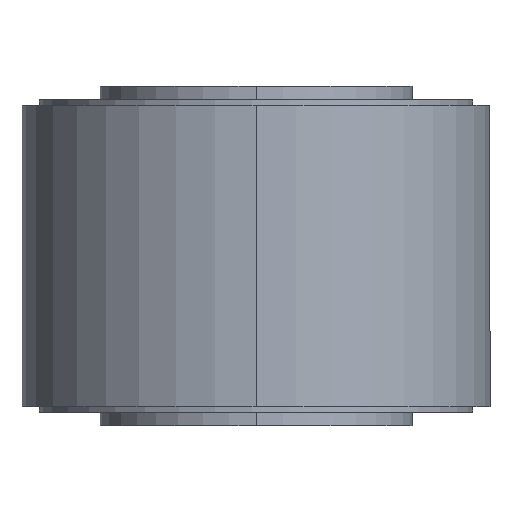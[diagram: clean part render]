
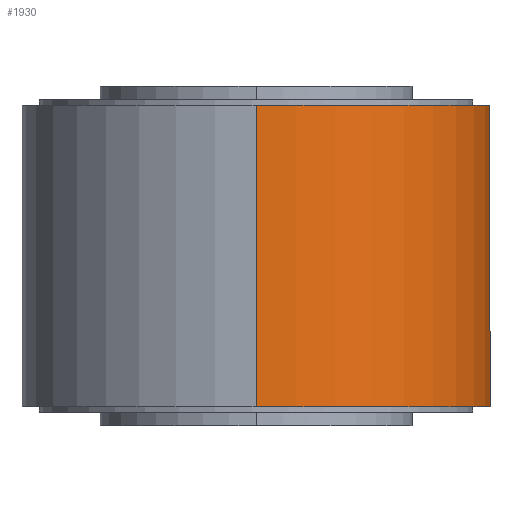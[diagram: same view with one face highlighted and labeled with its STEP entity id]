
A CAD part, left-side view. The second image highlights one B-rep face of the part: STEP entity #1930.
In plain terms, the highlighted cylindrical face has radius 67.5 mm (diameter 135 mm), a partial arc.
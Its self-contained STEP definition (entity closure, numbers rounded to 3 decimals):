
#122 = EDGE_LOOP ( 'NONE', ( #833, #839, #836, #811 ) ) ;
#618 = CIRCLE ( 'NONE', #876, 67.5 ) ;
#621 = CIRCLE ( 'NONE', #877, 67.5 ) ;
#623 = LINE ( 'NONE', #1073, #625 ) ;
#625 = VECTOR ( 'NONE', #1069, 1000. ) ;
#626 = LINE ( 'NONE', #1078, #628 ) ;
#628 = VECTOR ( 'NONE', #1074, 1000. ) ;
#674 = FACE_OUTER_BOUND ( 'NONE', #122, .T. ) ;
#679 = CYLINDRICAL_SURFACE ( 'NONE', #891, 67.5 ) ;
#811 = ORIENTED_EDGE ( 'NONE', *, *, #1901, .F. ) ;
#833 = ORIENTED_EDGE ( 'NONE', *, *, #1898, .F. ) ;
#836 = ORIENTED_EDGE ( 'NONE', *, *, #1900, .T. ) ;
#839 = ORIENTED_EDGE ( 'NONE', *, *, #1899, .T. ) ;
#876 = AXIS2_PLACEMENT_3D ( 'NONE', #1075, #1076, #1077 ) ;
#877 = AXIS2_PLACEMENT_3D ( 'NONE', #1080, #1081, #1082 ) ;
#891 = AXIS2_PLACEMENT_3D ( 'NONE', #1153, #1154, #1152 ) ;
#1069 = DIRECTION ( 'NONE',  ( 0., 0., -1. ) ) ;
#1073 = CARTESIAN_POINT ( 'NONE',  ( 0., -25.5, 45. ) ) ;
#1074 = DIRECTION ( 'NONE',  ( 0., 0., -1. ) ) ;
#1075 = CARTESIAN_POINT ( 'NONE',  ( 67.5, -25.5, 43.5 ) ) ;
#1076 = DIRECTION ( 'NONE',  ( 0., 0., 1. ) ) ;
#1077 = DIRECTION ( 'NONE',  ( 1., 0., 0. ) ) ;
#1078 = CARTESIAN_POINT ( 'NONE',  ( 108.394, -79.202, 45. ) ) ;
#1080 = CARTESIAN_POINT ( 'NONE',  ( 67.5, -25.5, -43.5 ) ) ;
#1081 = DIRECTION ( 'NONE',  ( 0., 0., 1. ) ) ;
#1082 = DIRECTION ( 'NONE',  ( 1., 0., 0. ) ) ;
#1152 = DIRECTION ( 'NONE',  ( -1., 0., 0. ) ) ;
#1153 = CARTESIAN_POINT ( 'NONE',  ( 67.5, -25.5, 45. ) ) ;
#1154 = DIRECTION ( 'NONE',  ( 0., 0., -1. ) ) ;
#1367 = VERTEX_POINT ( 'NONE', #1579 ) ;
#1374 = VERTEX_POINT ( 'NONE', #1576 ) ;
#1387 = VERTEX_POINT ( 'NONE', #1571 ) ;
#1405 = VERTEX_POINT ( 'NONE', #1548 ) ;
#1548 = CARTESIAN_POINT ( 'NONE',  ( 0., -25.5, 43.5 ) ) ;
#1571 = CARTESIAN_POINT ( 'NONE',  ( 108.394, -79.202, -43.5 ) ) ;
#1576 = CARTESIAN_POINT ( 'NONE',  ( 0., -25.5, -43.5 ) ) ;
#1579 = CARTESIAN_POINT ( 'NONE',  ( 108.394, -79.202, 43.5 ) ) ;
#1898 = EDGE_CURVE ( 'NONE', #1405, #1367, #618, .T. ) ;
#1899 = EDGE_CURVE ( 'NONE', #1405, #1374, #623, .T. ) ;
#1900 = EDGE_CURVE ( 'NONE', #1374, #1387, #621, .T. ) ;
#1901 = EDGE_CURVE ( 'NONE', #1367, #1387, #626, .T. ) ;
#1930 = ADVANCED_FACE ( 'NONE', ( #674 ), #679, .T. ) ;
